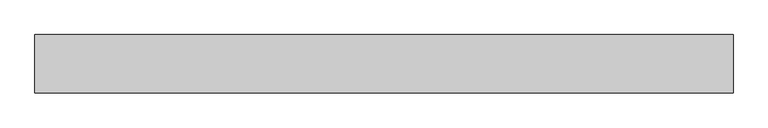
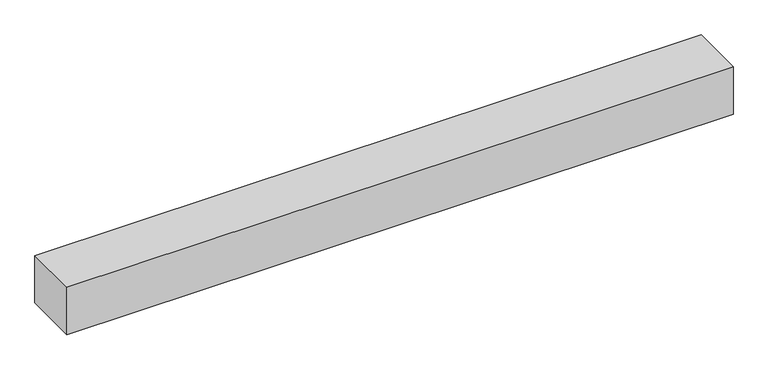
"""IFC4 building model written with IfcOpenShell, lengths in millimetres: light fixture geometry, M_条状照明设备 : 1200 1 盏灯 - 120."""

from ifc_helpers import new_model, si_unit, origin, origin_with_axes, place, context, project, spatial, polyline, outline, extrude, source, transform, mapped, element, save


def light_fixture_c59fea23(model_context):
    return source(origin(), model_context, "Body", "SweptSolid", [
        extrude(outline(polyline([(1200.0, 50.0), (1200.0, -50.0), (0.0, -50.0), (0.0, 50.0), (1200.0, 50.0)])), origin_with_axes(), (0.0, 0.0, 1.0), 90.0),
    ])


if __name__ == "__main__":
    model = new_model("IFC4")
    model_context = context("Model", 3, world=origin())
    ifc_project = project(units=[si_unit("LENGTHUNIT", "METRE", prefix="MILLI")], contexts=[model_context])
    site = spatial("IfcSite", under=ifc_project)
    building = spatial("IfcBuilding", under=site)
    placement = place(None, origin())
    light_fixture_shape = light_fixture_c59fea23(model_context)
    element("IfcLightFixture", 1, ObjectType="M_条状照明设备 : 1200 1 盏灯 - 120", at=placement, inside=building, context=model_context, shape_type="MappedRepresentation", body=[
        mapped(light_fixture_shape, transform((0.0, 0.0, 0.0), x_axis=(1.0, 0.0, 0.0), y_axis=(0.0, 1.0, 0.0), z_axis=(0.0, 0.0, 1.0))),
    ])
    save(model, "model.ifc")
